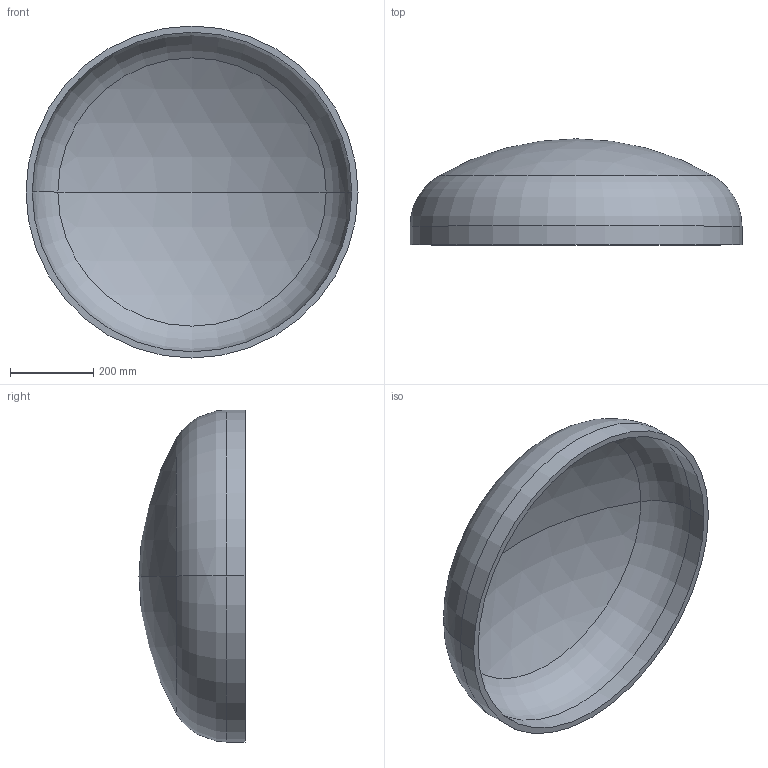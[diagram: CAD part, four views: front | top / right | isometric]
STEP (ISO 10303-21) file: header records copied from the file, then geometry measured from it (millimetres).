
FILE_DESCRIPTION (( 'STEP AP203' ), '1' );
FILE_NAME ('DIN 28013 Korbbogenform_-_Boden DIN 28013 - 800 x 45 - I - s=15.step', '2016-07-01T08:13:05', ( '' ), ( '' ), 'SwSTEP 2.0', 'SolidWorks 2013', '' );
FILE_SCHEMA (( 'CONFIG_CONTROL_DESIGN' ));
Length unit declared in the file: millimetre
Products named in the file (1): DIN 28013 Korbbogenform_-_Boden DIN 28013 - 800 x 45 - I - s=15
Bounding box: 800 x 255.45 x 800 mm (x, y, z)
Volume: 11881885.8 mm3; surface area: 1621714.4 mm2
Topology: 1 solids, 1 shells, 13 faces, 24 edges, 14 vertices
Faces by surface type: torus 4, cylinder 4, sphere 4, plane 1
Entity records: 407 total; most frequent: DIRECTION 72, CARTESIAN_POINT 52, ORIENTED_EDGE 48, AXIS2_PLACEMENT_3D 34, EDGE_CURVE 24, CIRCLE 20, EDGE_LOOP 14, VERTEX_POINT 14
